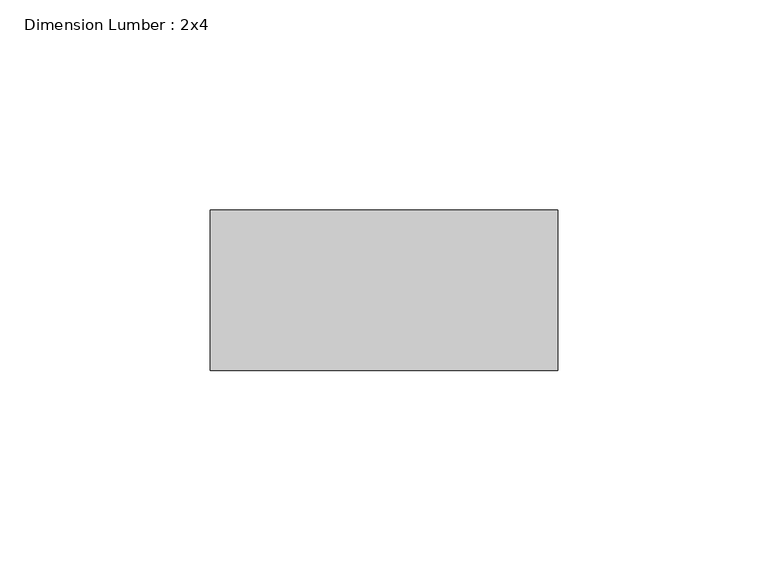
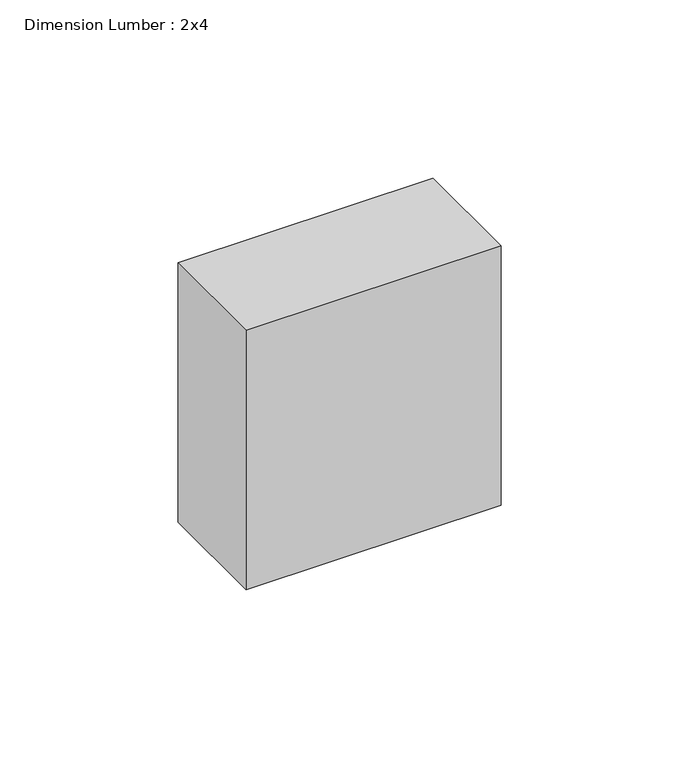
"""IFC4 building model written with IfcOpenShell, lengths in millimetres: beam geometry, Dimension Lumber : 2x4."""

from ifc_helpers import new_model, si_unit, frame, origin, place, context, project, spatial, polyline, outline, extrude, source, transform, mapped, element, save


def dimension_lumber_2x4_d0982e5f(model_context):
    return source(origin(), model_context, "Body", "SweptSolid", [
        extrude(outline(polyline([(41.275, 19.05), (41.275, -19.05), (-41.275, -19.05), (-41.275, 19.05), (41.275, 19.05)])), frame((0.0, 0.0, -44.45), z_axis=(0.0, 0.0, 1.0), x_axis=(1.0, 0.0, 0.0)), (0.0, 0.0, 1.0), 88.9),
    ])


if __name__ == "__main__":
    model = new_model("IFC4")
    model_context = context("Model", 3, world=origin())
    ifc_project = project(units=[si_unit("LENGTHUNIT", "METRE", prefix="MILLI")], contexts=[model_context])
    site = spatial("IfcSite", under=ifc_project)
    building = spatial("IfcBuilding", under=site)
    placement = place(None, origin())
    dimension_lumber_2x4_shape = dimension_lumber_2x4_d0982e5f(model_context)
    element("IfcBeam", 1, ObjectType="Dimension Lumber : 2x4", at=placement, inside=building, context=model_context, shape_type="MappedRepresentation", body=[
        mapped(dimension_lumber_2x4_shape, transform((0.0, 0.0, 0.0), x_axis=(1.0, 0.0, 0.0), y_axis=(0.0, 1.0, 0.0), z_axis=(0.0, 0.0, 1.0))),
    ])
    save(model, "model.ifc")
